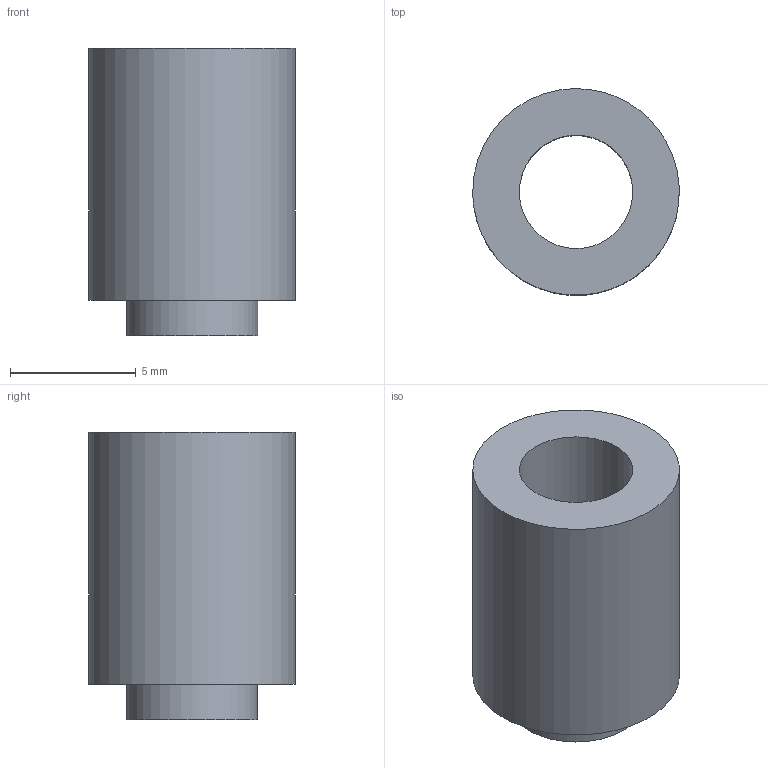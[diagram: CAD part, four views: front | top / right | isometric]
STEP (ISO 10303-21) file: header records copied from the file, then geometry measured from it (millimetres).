
FILE_DESCRIPTION(('FreeCAD Model'),'2;1');
FILE_NAME('Open CASCADE Shape Model','2026-03-20T17:23:27',('Author'),( ''),'Open CASCADE STEP processor 7.8','FreeCAD','Unknown');
FILE_SCHEMA(('AP242_MANAGED_MODEL_BASED_3D_ENGINEERING_MIM_LF. {1 0 10303 442 1 1 4 }'));
Length unit declared in the file: millimetre
Products named in the file (1): 1_transformed
Bounding box: 8.19 x 8.19 x 11.4 mm (x, y, z)
Volume: 379.7 mm3; surface area: 516.6 mm2
Topology: 1 solids, 1 shells, 6 faces, 9 edges, 6 vertices
Faces by surface type: bspline 6
Entity records: 201 total; most frequent: CARTESIAN_POINT 109, ORIENTED_EDGE 18, FACE_BOUND 9, EDGE_LOOP 9, EDGE_CURVE 9, ADVANCED_FACE 6, VERTEX_POINT 6, B_SPLINE_CURVE_WITH_KNOTS 3
